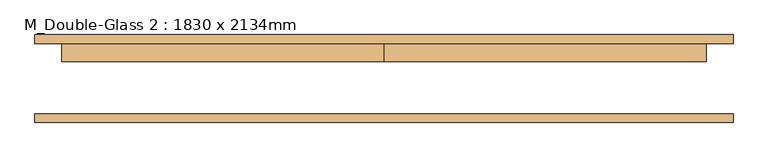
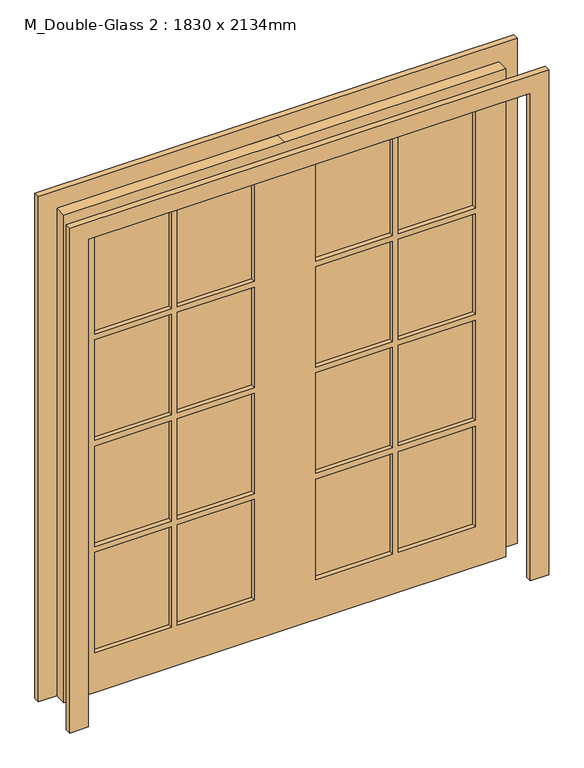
"""IFC4 building model written with IfcOpenShell, lengths in millimetres: door geometry, M_Double-Glass 2 : 1830 x 2134mm."""

from ifc_helpers import new_model, si_unit, frame, origin, place, context, project, spatial, polyline, outline, extrude, source, transform, mapped, element, save


def m_double_glass_2_1830_x_2134mm_c2fbe3d0(model_context):
    return source(origin(), model_context, "Body", "SweptSolid", [
        extrude(outline(polyline([(470.0, 80.95), (788.0, 80.95), (788.0, 68.25), (470.0, 68.25), (470.0, 80.95)])), frame((0.0, 0.0, 1569.25), z_axis=(0.0, 0.0, 1.0), x_axis=(1.0, 0.0, 0.0)), (0.0, 0.0, 1.0), 439.75),
        extrude(outline(polyline([(127.0, 80.95), (445.0, 80.95), (445.0, 68.25), (127.0, 68.25), (127.0, 80.95)])), frame((0.0, 0.0, 1569.25), z_axis=(0.0, 0.0, 1.0), x_axis=(1.0, 0.0, 0.0)), (0.0, 0.0, 1.0), 439.75),
        extrude(outline(polyline([(-445.0, 80.95), (-127.0, 80.95), (-127.0, 68.25), (-445.0, 68.25), (-445.0, 80.95)])), frame((0.0, 0.0, 1569.25), z_axis=(0.0, 0.0, 1.0), x_axis=(1.0, 0.0, 0.0)), (0.0, 0.0, 1.0), 439.75),
        extrude(outline(polyline([(-788.0, 80.95), (-470.0, 80.95), (-470.0, 68.25), (-788.0, 68.25), (-788.0, 80.95)])), frame((0.0, 0.0, 1569.25), z_axis=(0.0, 0.0, 1.0), x_axis=(1.0, 0.0, 0.0)), (0.0, 0.0, 1.0), 439.75),
        extrude(outline(polyline([(-788.0, 80.95), (-470.0, 80.95), (-470.0, 68.25), (-788.0, 68.25), (-788.0, 80.95)])), frame((0.0, 0.0, 1104.5), z_axis=(0.0, 0.0, 1.0), x_axis=(1.0, 0.0, 0.0)), (0.0, 0.0, 1.0), 439.75),
        extrude(outline(polyline([(-445.0, 80.95), (-127.0, 80.95), (-127.0, 68.25), (-445.0, 68.25), (-445.0, 80.95)])), frame((0.0, 0.0, 1104.5), z_axis=(0.0, 0.0, 1.0), x_axis=(1.0, 0.0, 0.0)), (0.0, 0.0, 1.0), 439.75),
        extrude(outline(polyline([(127.0, 80.95), (445.0, 80.95), (445.0, 68.25), (127.0, 68.25), (127.0, 80.95)])), frame((0.0, 0.0, 1104.5), z_axis=(0.0, 0.0, 1.0), x_axis=(1.0, 0.0, 0.0)), (0.0, 0.0, 1.0), 439.75),
        extrude(outline(polyline([(470.0, 80.95), (788.0, 80.95), (788.0, 68.25), (470.0, 68.25), (470.0, 80.95)])), frame((0.0, 0.0, 1104.5), z_axis=(0.0, 0.0, 1.0), x_axis=(1.0, 0.0, 0.0)), (0.0, 0.0, 1.0), 439.75),
        extrude(outline(polyline([(470.0, 80.95), (788.0, 80.95), (788.0, 68.25), (470.0, 68.25), (470.0, 80.95)])), frame((0.0, 0.0, 639.75), z_axis=(0.0, 0.0, 1.0), x_axis=(1.0, 0.0, 0.0)), (0.0, 0.0, 1.0), 439.75),
        extrude(outline(polyline([(127.0, 80.95), (445.0, 80.95), (445.0, 68.25), (127.0, 68.25), (127.0, 80.95)])), frame((0.0, 0.0, 639.75), z_axis=(0.0, 0.0, 1.0), x_axis=(1.0, 0.0, 0.0)), (0.0, 0.0, 1.0), 439.75),
        extrude(outline(polyline([(-445.0, 80.95), (-127.0, 80.95), (-127.0, 68.25), (-445.0, 68.25), (-445.0, 80.95)])), frame((0.0, 0.0, 639.75), z_axis=(0.0, 0.0, 1.0), x_axis=(1.0, 0.0, 0.0)), (0.0, 0.0, 1.0), 439.75),
        extrude(outline(polyline([(-788.0, 80.95), (-470.0, 80.95), (-470.0, 68.25), (-788.0, 68.25), (-788.0, 80.95)])), frame((0.0, 0.0, 639.75), z_axis=(0.0, 0.0, 1.0), x_axis=(1.0, 0.0, 0.0)), (0.0, 0.0, 1.0), 439.75),
        extrude(outline(polyline([(470.0, 80.95), (788.0, 80.95), (788.0, 68.25), (470.0, 68.25), (470.0, 80.95)])), frame((0.0, 0.0, 175.0), z_axis=(0.0, 0.0, 1.0), x_axis=(1.0, 0.0, 0.0)), (0.0, 0.0, 1.0), 439.75),
        extrude(outline(polyline([(127.0, 80.95), (445.0, 80.95), (445.0, 68.25), (127.0, 68.25), (127.0, 80.95)])), frame((0.0, 0.0, 175.0), z_axis=(0.0, 0.0, 1.0), x_axis=(1.0, 0.0, 0.0)), (0.0, 0.0, 1.0), 439.75),
        extrude(outline(polyline([(-445.0, 80.95), (-127.0, 80.95), (-127.0, 68.25), (-445.0, 68.25), (-445.0, 80.95)])), frame((0.0, 0.0, 175.0), z_axis=(0.0, 0.0, 1.0), x_axis=(1.0, 0.0, 0.0)), (0.0, 0.0, 1.0), 439.75),
        extrude(outline(polyline([(-788.0, 80.95), (-470.0, 80.95), (-470.0, 68.25), (-788.0, 68.25), (-788.0, 80.95)])), frame((0.0, 0.0, 175.0), z_axis=(0.0, 0.0, 1.0), x_axis=(1.0, 0.0, 0.0)), (0.0, 0.0, 1.0), 439.75),
        extrude(outline(polyline([(2134.0, 0.0), (2134.0, -915.0), (0.0, -915.0), (0.0, 0.0), (0.0, 915.0), (2134.0, 915.0), (2134.0, 0.0)]), holes=[polyline([(2009.0, 470.0), (2009.0, 788.0), (1569.25, 788.0), (1569.25, 470.0), (2009.0, 470.0)]), polyline([(2009.0, 127.0), (2009.0, 445.0), (1569.25, 445.0), (1569.25, 127.0), (2009.0, 127.0)]), polyline([(1544.25, 470.0), (1544.25, 788.0), (1104.5, 788.0), (1104.5, 470.0), (1544.25, 470.0)]), polyline([(1544.25, 127.0), (1544.25, 445.0), (1104.5, 445.0), (1104.5, 127.0), (1544.25, 127.0)]), polyline([(1079.5, 470.0), (1079.5, 788.0), (639.75, 788.0), (639.75, 470.0), (1079.5, 470.0)]), polyline([(1079.5, 127.0), (1079.5, 445.0), (639.75, 445.0), (639.75, 127.0), (1079.5, 127.0)]), polyline([(614.75, 470.0), (614.75, 788.0), (175.0, 788.0), (175.0, 470.0), (614.75, 470.0)]), polyline([(614.75, 127.0), (614.75, 445.0), (175.0, 445.0), (175.0, 127.0), (614.75, 127.0)]), polyline([(2009.0, -445.0), (2009.0, -127.0), (1569.25, -127.0), (1569.25, -445.0), (2009.0, -445.0)]), polyline([(1544.25, -445.0), (1544.25, -127.0), (1104.5, -127.0), (1104.5, -445.0), (1544.25, -445.0)]), polyline([(1544.25, -470.0), (1104.5, -470.0), (1104.5, -788.0), (1544.25, -788.0), (1544.25, -470.0)]), polyline([(1079.5, -445.0), (1079.5, -127.0), (639.75, -127.0), (639.75, -445.0), (1079.5, -445.0)]), polyline([(1079.5, -470.0), (639.75, -470.0), (639.75, -788.0), (1079.5, -788.0), (1079.5, -470.0)]), polyline([(614.75, -445.0), (614.75, -127.0), (175.0, -127.0), (175.0, -445.0), (614.75, -445.0)]), polyline([(614.75, -788.0), (614.75, -470.0), (175.0, -470.0), (175.0, -788.0), (614.75, -788.0)]), polyline([(1569.25, -470.0), (1569.25, -788.0), (2009.0, -788.0), (2009.0, -470.0), (1569.25, -470.0)])]), frame((0.0, 49.0, 0.0), z_axis=(0.0, 1.0, 0.0), x_axis=(0.0, 0.0, 1.0)), (0.0, 0.0, 1.0), 51.0),
        extrude(outline(polyline([(2134.0, -915.0), (2134.0, 915.0), (0.0, 915.0), (0.0, 991.2), (2210.2, 991.2), (2210.2, -991.2), (0.0, -991.2), (0.0, -915.0), (2134.0, -915.0)])), frame((0.0, -125.0, 0.0), z_axis=(0.0, 1.0, 0.0), x_axis=(0.0, 0.0, 1.0)), (0.0, 0.0, 1.0), 25.0),
        extrude(outline(polyline([(2134.0, -915.0), (2134.0, 915.0), (0.0, 915.0), (0.0, 991.2), (2210.2, 991.2), (2210.2, -991.2), (0.0, -991.2), (0.0, -915.0), (2134.0, -915.0)])), frame((0.0, 100.0, 0.0), z_axis=(0.0, 1.0, 0.0), x_axis=(0.0, 0.0, 1.0)), (0.0, 0.0, 1.0), 25.0),
    ])


if __name__ == "__main__":
    model = new_model("IFC4")
    model_context = context("Model", 3, world=origin())
    ifc_project = project(units=[si_unit("LENGTHUNIT", "METRE", prefix="MILLI")], contexts=[model_context])
    site = spatial("IfcSite", under=ifc_project)
    building = spatial("IfcBuilding", under=site)
    placement = place(None, origin())
    m_double_glass_2_1830_x_2134mm_shape = m_double_glass_2_1830_x_2134mm_c2fbe3d0(model_context)
    element("IfcDoor", 1, ObjectType="M_Double-Glass 2 : 1830 x 2134mm", at=placement, inside=building, context=model_context, shape_type="MappedRepresentation", body=[
        mapped(m_double_glass_2_1830_x_2134mm_shape, transform((0.0, 0.0, 0.0), x_axis=(1.0, 0.0, 0.0), y_axis=(0.0, 1.0, 0.0), z_axis=(0.0, 0.0, 1.0))),
    ])
    save(model, "model.ifc")
